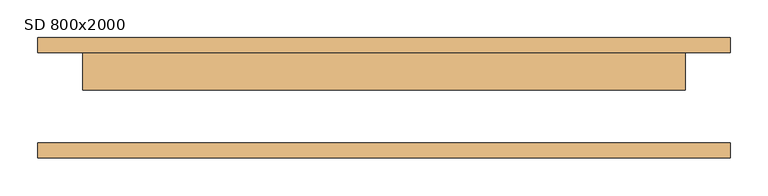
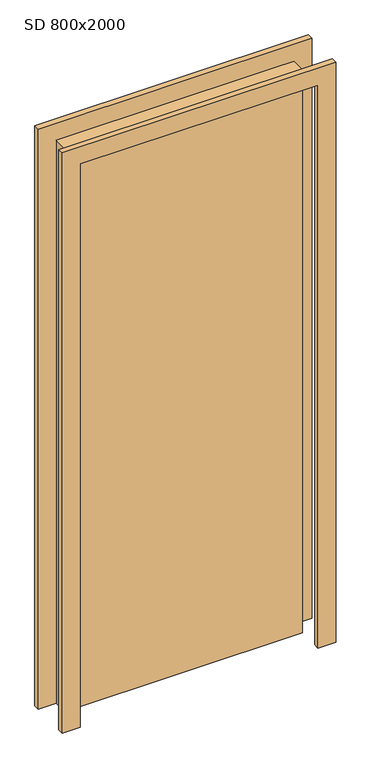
"""IFC4 building model written with IfcOpenShell, lengths in millimetres: door geometry, JednokridlePlne : SD 800x2000."""

from ifc_helpers import new_model, si_unit, frame, origin, origin_with_axes, place, context, project, spatial, polyline, outline, extrude, source, transform, mapped, element, save


def sd_800x2000_b5de6549(model_context):
    return source(origin(), model_context, "Body", "SweptSolid", [
        extrude(outline(polyline([(2060.0, -460.0), (0.0, -460.0), (0.0, -400.0), (2000.0, -400.0), (2000.0, 400.0), (0.0, 400.0), (0.0, 460.0), (2060.0, 460.0), (2060.0, -460.0)])), frame((0.0, 60.0, 0.0), z_axis=(0.0, 1.0, 0.0), x_axis=(0.0, 0.0, 1.0)), (0.0, 0.0, 1.0), 20.0),
        extrude(outline(polyline([(2060.0, 460.0), (2060.0, -460.0), (0.0, -460.0), (0.0, -400.0), (2000.0, -400.0), (2000.0, 400.0), (0.0, 400.0), (0.0, 460.0), (2060.0, 460.0)])), frame((0.0, -80.0, 0.0), z_axis=(0.0, 1.0, 0.0), x_axis=(0.0, 0.0, 1.0)), (0.0, 0.0, 1.0), 20.0),
        extrude(outline(polyline([(400.0, 10.0), (-400.0, 10.0), (-400.0, 60.0), (400.0, 60.0), (400.0, 10.0)])), origin_with_axes(), (0.0, 0.0, 1.0), 2000.0),
    ])


if __name__ == "__main__":
    model = new_model("IFC4")
    model_context = context("Model", 3, world=origin())
    ifc_project = project(units=[si_unit("LENGTHUNIT", "METRE", prefix="MILLI")], contexts=[model_context])
    site = spatial("IfcSite", under=ifc_project)
    building = spatial("IfcBuilding", under=site)
    placement = place(None, origin())
    sd_800x2000_shape = sd_800x2000_b5de6549(model_context)
    element("IfcDoor", 1, ObjectType="JednokridlePlne : SD 800x2000", at=placement, inside=building, context=model_context, shape_type="MappedRepresentation", body=[
        mapped(sd_800x2000_shape, transform((0.0, 0.0, 0.0), x_axis=(1.0, 0.0, 0.0), y_axis=(0.0, 1.0, 0.0), z_axis=(0.0, 0.0, 1.0))),
    ])
    save(model, "model.ifc")
